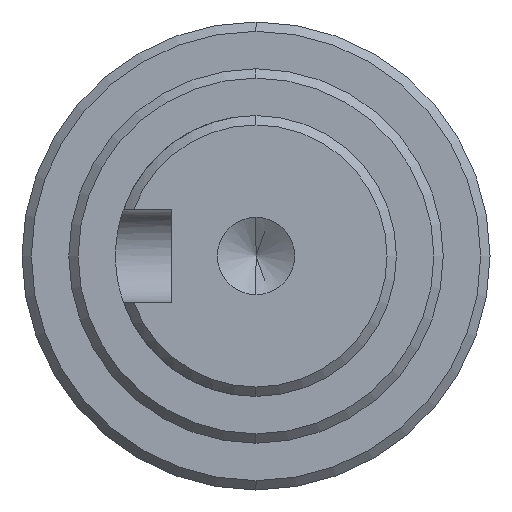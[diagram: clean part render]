
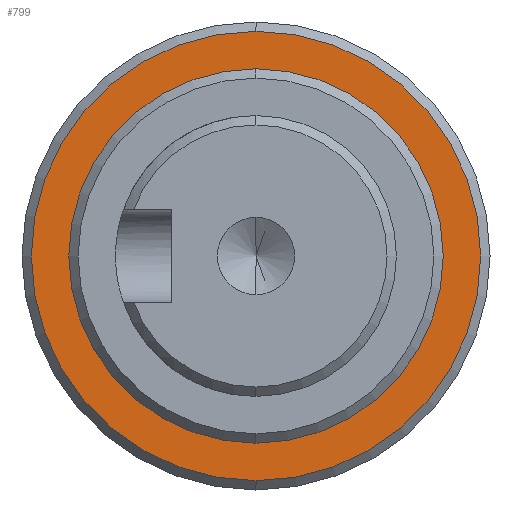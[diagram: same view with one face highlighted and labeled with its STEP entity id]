
A CAD part, left-side view. The second image highlights one B-rep face of the part: STEP entity #799.
In plain terms, the highlighted planar face has unit normal (-1, 0, 0).
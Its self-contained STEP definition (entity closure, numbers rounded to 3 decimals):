
#20 = VERTEX_POINT ( 'NONE', #1076 ) ;
#55 = DIRECTION ( 'NONE',  ( -1., 0., 0. ) ) ;
#74 = EDGE_CURVE ( 'NONE', #20, #208, #915, .T. ) ;
#89 = DIRECTION ( 'NONE',  ( 0., 0., -1. ) ) ;
#122 = ORIENTED_EDGE ( 'NONE', *, *, #74, .T. ) ;
#139 = EDGE_CURVE ( 'NONE', #461, #289, #388, .T. ) ;
#142 = CARTESIAN_POINT ( 'NONE',  ( 64., 0., 0. ) ) ;
#163 = CIRCLE ( 'NONE', #246, 12. ) ;
#169 = CARTESIAN_POINT ( 'NONE',  ( 64., 0., 0. ) ) ;
#208 = VERTEX_POINT ( 'NONE', #372 ) ;
#209 = FACE_OUTER_BOUND ( 'NONE', #1016, .T. ) ;
#238 = DIRECTION ( 'NONE',  ( 1., 0., 0. ) ) ;
#239 = AXIS2_PLACEMENT_3D ( 'NONE', #142, #1015, #495 ) ;
#246 = AXIS2_PLACEMENT_3D ( 'NONE', #169, #699, #89 ) ;
#254 = AXIS2_PLACEMENT_3D ( 'NONE', #350, #958, #430 ) ;
#289 = VERTEX_POINT ( 'NONE', #892 ) ;
#350 = CARTESIAN_POINT ( 'NONE',  ( 64., 0., 0. ) ) ;
#372 = CARTESIAN_POINT ( 'NONE',  ( 64., 0., -12. ) ) ;
#388 = CIRCLE ( 'NONE', #941, 10. ) ;
#430 = DIRECTION ( 'NONE',  ( 0., 0., -1. ) ) ;
#436 = EDGE_CURVE ( 'NONE', #208, #20, #163, .T. ) ;
#461 = VERTEX_POINT ( 'NONE', #992 ) ;
#463 = ORIENTED_EDGE ( 'NONE', *, *, #139, .T. ) ;
#495 = DIRECTION ( 'NONE',  ( 0., 0., -1. ) ) ;
#570 = CARTESIAN_POINT ( 'NONE',  ( 64., 0., 0. ) ) ;
#644 = AXIS2_PLACEMENT_3D ( 'NONE', #570, #55, #658 ) ;
#658 = DIRECTION ( 'NONE',  ( 0., 0., -1. ) ) ;
#699 = DIRECTION ( 'NONE',  ( -1., 0., 0. ) ) ;
#751 = CIRCLE ( 'NONE', #254, 10. ) ;
#757 = CARTESIAN_POINT ( 'NONE',  ( 64., 0., 0. ) ) ;
#777 = ORIENTED_EDGE ( 'NONE', *, *, #436, .T. ) ;
#799 = ADVANCED_FACE ( 'NONE', ( #209, #1100 ), #839, .F. ) ;
#839 = PLANE ( 'NONE',  #239 ) ;
#844 = DIRECTION ( 'NONE',  ( 0., 0., -1. ) ) ;
#892 = CARTESIAN_POINT ( 'NONE',  ( 64., 0., 10. ) ) ;
#915 = CIRCLE ( 'NONE', #644, 12. ) ;
#941 = AXIS2_PLACEMENT_3D ( 'NONE', #757, #238, #844 ) ;
#958 = DIRECTION ( 'NONE',  ( 1., 0., 0. ) ) ;
#968 = EDGE_CURVE ( 'NONE', #289, #461, #751, .T. ) ;
#992 = CARTESIAN_POINT ( 'NONE',  ( 64., 0., -10. ) ) ;
#1015 = DIRECTION ( 'NONE',  ( 1., 0., 0. ) ) ;
#1016 = EDGE_LOOP ( 'NONE', ( #777, #122 ) ) ;
#1030 = ORIENTED_EDGE ( 'NONE', *, *, #968, .T. ) ;
#1076 = CARTESIAN_POINT ( 'NONE',  ( 64., 0., 12. ) ) ;
#1094 = EDGE_LOOP ( 'NONE', ( #1030, #463 ) ) ;
#1100 = FACE_BOUND ( 'NONE', #1094, .T. ) ;
